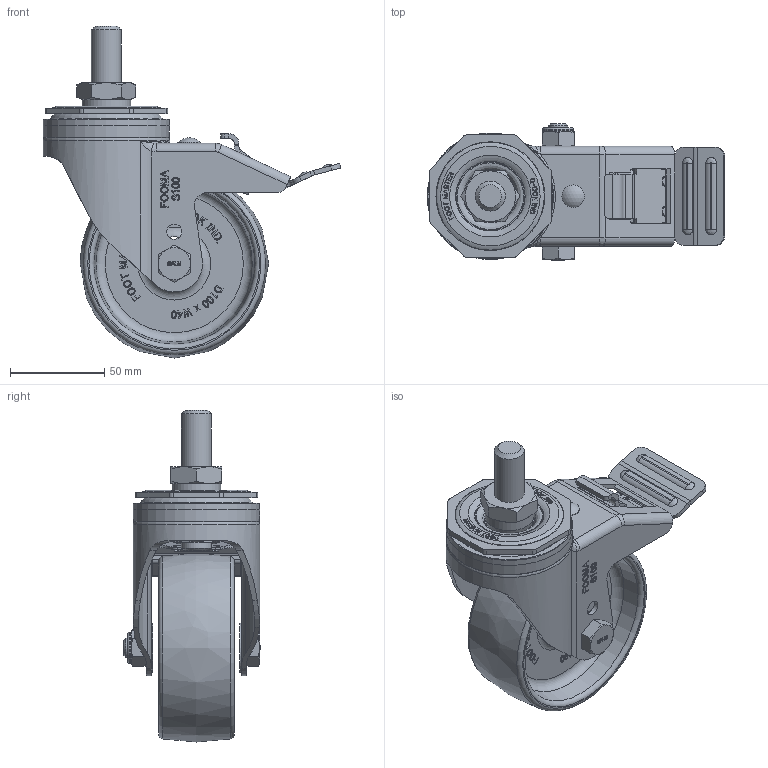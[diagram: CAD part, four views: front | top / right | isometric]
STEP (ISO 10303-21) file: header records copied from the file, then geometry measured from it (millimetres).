
FILE_DESCRIPTION(/* description */ (''),/* implementation_level */ '2;1');
FILE_NAME(/* name */ '\\192.168.10.38\지덕공유\1.기술연구소\2.연구개발 완료\완료_98.스테인레스캐스터 개발건_2023.10.26\제품설계\3D\홈페이지용\NYP\STP\SPLM-100-BSS-NYP.stp',/* time_stamp */ '2025-07-17T16:48:16+09:00',/* author */ ('admin'),/* organization */ ('지덕산업'),/* preprocessor_version */ 'ST-DEVELOPER v18.1',/* originating_system */ 'Autodesk Inventor 2021',/* authorisation */ '');
FILE_SCHEMA (('CONFIG_CONTROL_DESIGN'));
Products named in the file (1): SPLM-100-BSS-NYP
Bounding box: 157.79 x 72.3 x 176 mm (x, y, z)
Volume: 289204.8 mm3; surface area: 96733.5 mm2
Topology: 1 solids, 1 shells, 1763 faces, 4686 edges, 3025 vertices
Faces by surface type: plane 901, bspline 506, cylinder 253, cone 66, torus 36, sphere 1
Full cylindrical faces by diameter (mm): 6 x1, 7 x3, 8 x2, 9 x1, 10 x2, 11 x1, 12 x1, 15.875 x1, 16 x2, 16.5 x1, 25.8 x1, 54 x1, 67 x1
Entity records: 56428 total; most frequent: CARTESIAN_POINT 15923, ORIENTED_EDGE 9364, DIRECTION 6719, EDGE_CURVE 4682, VERTEX_POINT 3025, LINE 2827, VECTOR 2827, AXIS2_PLACEMENT_3D 1946
